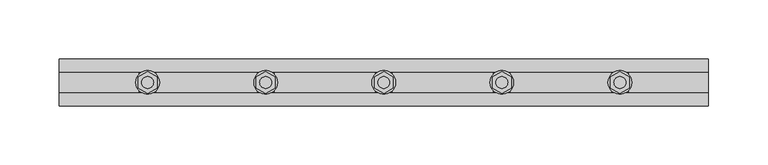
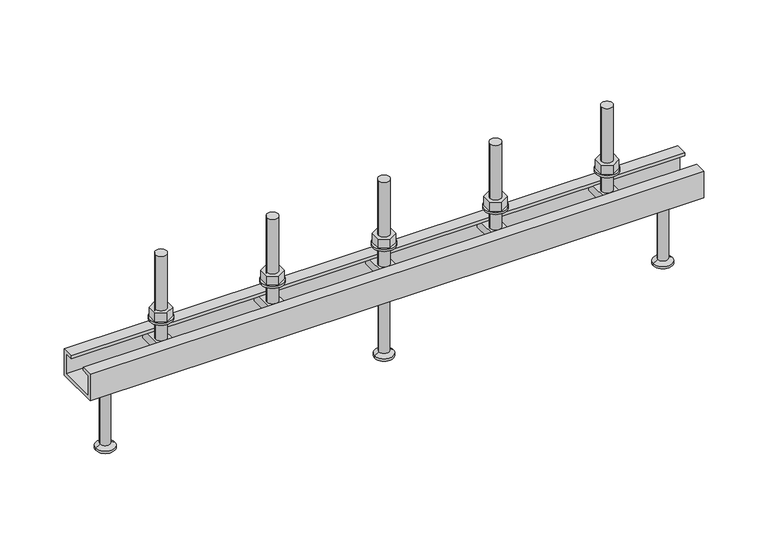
"""IFC4 building model written with IfcOpenShell, lengths in millimetres: fastener geometry, JTA-K JORDAHL® AnchorChannels : JTA-K L=550 mm."""

from ifc_helpers import new_model, si_unit, point, frame, frame_2d, origin, place, context, project, spatial, polyline, circle_curve, trimmed, segment, composite_curve, outline, extrude, source, transform, mapped, element, save
from ifc_brep_helpers import plane_surface, cylinder_surface, revolved_surface, advanced_brep


def fastener_92227e6e(model_context):
    return source(origin(), model_context, "Body", "SolidModel", [
        extrude(outline(polyline([(375.0, -9.2376043), (367.0, -4.6188022), (367.0, 4.6188022), (375.0, 9.2376043), (383.0, 4.6188022), (383.0, -4.6188022), (375.0, -9.2376043)]), holes=[composite_curve([segment(trimmed(circle_curve(frame_2d((375.0, 0.0)), 5.0), [point((370.0, 0.0))], [point((380.0, 0.0))], True, "CARTESIAN"), True, "CONTINUOUS"), segment(trimmed(circle_curve(frame_2d((375.0, 0.0)), 5.0), [point((380.0, 0.0))], [point((370.0, 0.0))], True, "CARTESIAN"), True, "CONTINUOUS")], self_intersect=False)]), frame((0.0, 0.0, 17.0), z_axis=(0.0, 0.0, 1.0), x_axis=(1.0, 0.0, 0.0)), (0.0, 0.0, 1.0), 8.4),
        extrude(outline(composite_curve([segment(trimmed(circle_curve(frame_2d((375.0, 0.0)), 10.0), [point((365.0, 0.0))], [point((385.0, 0.0))], False, "CARTESIAN"), True, "CONTINUOUS"), segment(trimmed(circle_curve(frame_2d((375.0, 0.0)), 10.0), [point((385.0, 0.0))], [point((365.0, 0.0))], False, "CARTESIAN"), True, "CONTINUOUS")], self_intersect=False), holes=[composite_curve([segment(trimmed(circle_curve(frame_2d((375.0, 0.0)), 5.25), [point((369.75, 0.0))], [point((380.25, 0.0))], True, "CARTESIAN"), True, "CONTINUOUS"), segment(trimmed(circle_curve(frame_2d((375.0, 0.0)), 5.25), [point((380.25, 0.0))], [point((369.75, 0.0))], True, "CARTESIAN"), True, "CONTINUOUS")], self_intersect=False)]), frame((0.0, 0.0, 15.0), z_axis=(0.0, 0.0, 1.0), x_axis=(1.0, 0.0, 0.0)), (0.0, 0.0, 1.0), 2.0),
        extrude(outline(polyline([(275.0, -9.2376043), (267.0, -4.6188022), (267.0, 4.6188022), (275.0, 9.2376043), (283.0, 4.6188022), (283.0, -4.6188022), (275.0, -9.2376043)]), holes=[composite_curve([segment(trimmed(circle_curve(frame_2d((275.0, 0.0)), 5.0), [point((270.0, 0.0))], [point((280.0, 0.0))], True, "CARTESIAN"), True, "CONTINUOUS"), segment(trimmed(circle_curve(frame_2d((275.0, 0.0)), 5.0), [point((280.0, 0.0))], [point((270.0, 0.0))], True, "CARTESIAN"), True, "CONTINUOUS")], self_intersect=False)]), frame((0.0, 0.0, 17.0), z_axis=(0.0, 0.0, 1.0), x_axis=(1.0, 0.0, 0.0)), (0.0, 0.0, 1.0), 8.4),
        extrude(outline(composite_curve([segment(trimmed(circle_curve(frame_2d((275.0, 0.0)), 10.0), [point((265.0, 0.0))], [point((285.0, 0.0))], False, "CARTESIAN"), True, "CONTINUOUS"), segment(trimmed(circle_curve(frame_2d((275.0, 0.0)), 10.0), [point((285.0, 0.0))], [point((265.0, 0.0))], False, "CARTESIAN"), True, "CONTINUOUS")], self_intersect=False), holes=[composite_curve([segment(trimmed(circle_curve(frame_2d((275.0, 0.0)), 5.25), [point((269.75, 0.0))], [point((280.25, 0.0))], True, "CARTESIAN"), True, "CONTINUOUS"), segment(trimmed(circle_curve(frame_2d((275.0, 0.0)), 5.25), [point((280.25, 0.0))], [point((269.75, 0.0))], True, "CARTESIAN"), True, "CONTINUOUS")], self_intersect=False)]), frame((0.0, 0.0, 15.0), z_axis=(0.0, 0.0, 1.0), x_axis=(1.0, 0.0, 0.0)), (0.0, 0.0, 1.0), 2.0),
        extrude(outline(polyline([(175.0, -9.2376043), (167.0, -4.6188022), (167.0, 4.6188022), (175.0, 9.2376043), (183.0, 4.6188022), (183.0, -4.6188022), (175.0, -9.2376043)]), holes=[composite_curve([segment(trimmed(circle_curve(frame_2d((175.0, 0.0)), 5.0), [point((170.0, 0.0))], [point((180.0, 0.0))], True, "CARTESIAN"), True, "CONTINUOUS"), segment(trimmed(circle_curve(frame_2d((175.0, 0.0)), 5.0), [point((180.0, 0.0))], [point((170.0, 0.0))], True, "CARTESIAN"), True, "CONTINUOUS")], self_intersect=False)]), frame((0.0, 0.0, 17.0), z_axis=(0.0, 0.0, 1.0), x_axis=(1.0, 0.0, 0.0)), (0.0, 0.0, 1.0), 8.4),
        extrude(outline(composite_curve([segment(trimmed(circle_curve(frame_2d((175.0, 0.0)), 10.0), [point((165.0, 0.0))], [point((185.0, 0.0))], False, "CARTESIAN"), True, "CONTINUOUS"), segment(trimmed(circle_curve(frame_2d((175.0, 0.0)), 10.0), [point((185.0, 0.0))], [point((165.0, 0.0))], False, "CARTESIAN"), True, "CONTINUOUS")], self_intersect=False), holes=[composite_curve([segment(trimmed(circle_curve(frame_2d((175.0, 0.0)), 5.25), [point((169.75, 0.0))], [point((180.25, 0.0))], True, "CARTESIAN"), True, "CONTINUOUS"), segment(trimmed(circle_curve(frame_2d((175.0, 0.0)), 5.25), [point((180.25, 0.0))], [point((169.75, 0.0))], True, "CARTESIAN"), True, "CONTINUOUS")], self_intersect=False)]), frame((0.0, 0.0, 15.0), z_axis=(0.0, 0.0, 1.0), x_axis=(1.0, 0.0, 0.0)), (0.0, 0.0, 1.0), 2.0),
        advanced_brep(
        [(382.0, -16.0, -3.0), (382.0, -16.0, -11.0), (382.0, 16.0, -11.0), (382.0, 16.0, -3.0), (368.0, -16.0, -3.0), (368.0, 16.0, -3.0), (368.0, 16.0, -11.0), (368.0, -16.0, -11.0), (380.0, 0.0, -3.0), (370.0, 0.0, -3.0), (370.0, 0.0, 77.0), (380.0, 0.0, 77.0)],
        [
            (0, 1),
            (1, 2),
            (2, 3),
            (3, 0),
            (4, 5),
            (5, 6),
            (6, 7),
            (7, 4),
            (3, 5),
            (4, 0),
            (8, 9, circle_curve(frame((375.0, 0.0, -3.0), z_axis=(0.0, 0.0, -1.0), x_axis=(1.0, 0.0, 0.0)), 5.0)),
            (9, 8, circle_curve(frame((375.0, 0.0, -3.0), z_axis=(0.0, 0.0, -1.0), x_axis=(1.0, 0.0, 0.0)), 5.0)),
            (2, 6),
            (1, 7),
            (10, 11, circle_curve(frame((375.0, 0.0, 77.0), z_axis=(0.0, 0.0, 1.0), x_axis=(1.0, 0.0, 0.0)), 5.0)),
            (11, 10, circle_curve(frame((375.0, 0.0, 77.0), z_axis=(0.0, 0.0, 1.0), x_axis=(1.0, 0.0, 0.0)), 5.0)),
            (11, 8),
            (9, 10),
        ],
        [
            plane_surface(frame((382.0, 16.0, -3.0), z_axis=(1.0, 0.0, 0.0), x_axis=(0.0, 1.0, 0.0))),
            plane_surface(frame((368.0, 16.0, -3.0), z_axis=(-1.0, 0.0, 0.0), x_axis=(0.0, -1.0, 0.0))),
            plane_surface(frame((382.0, -16.0, -3.0), z_axis=(0.0, 0.0, 1.0), x_axis=(-1.0, 0.0, 0.0))),
            plane_surface(frame((382.0, 16.0, -3.0), z_axis=(0.0, 1.0, 0.0), x_axis=(-1.0, 0.0, 0.0))),
            plane_surface(frame((382.0, 16.0, -11.0), z_axis=(0.0, 0.0, -1.0), x_axis=(-1.0, 0.0, 0.0))),
            plane_surface(frame((382.0, -16.0, -11.0), z_axis=(0.0, -1.0, 0.0), x_axis=(-1.0, 0.0, 0.0))),
            plane_surface(frame((380.0, 0.0, 77.0), z_axis=(0.0, 0.0, 1.0), x_axis=(0.0, -1.0, 0.0))),
            cylinder_surface(frame((375.0, 0.0, -3.0), z_axis=(0.0, 0.0, 1.0), x_axis=(1.0, 0.0, 0.0)), 5.0),
        ],
        [
            (0, [[1, 2, 3, 4]]),
            (1, [[5, 6, 7, 8]]),
            (2, [[9, -5, 10, -4], [11, 12]]),
            (3, [[13, -6, -9, -3]]),
            (4, [[14, -7, -13, -2]]),
            (5, [[-10, -8, -14, -1]]),
            (6, [[15, 16]]),
            (7, [[17, -12, 18, -16]]),
            (7, [[-18, -11, -17, -15]]),
        ],
    ),
        advanced_brep(
        [(282.0, -16.0, -3.0), (282.0, -16.0, -11.0), (282.0, 16.0, -11.0), (282.0, 16.0, -3.0), (268.0, -16.0, -3.0), (268.0, 16.0, -3.0), (268.0, 16.0, -11.0), (268.0, -16.0, -11.0), (280.0, 0.0, -3.0), (270.0, 0.0, -3.0), (270.0, 0.0, 77.0), (280.0, 0.0, 77.0)],
        [
            (0, 1),
            (1, 2),
            (2, 3),
            (3, 0),
            (4, 5),
            (5, 6),
            (6, 7),
            (7, 4),
            (3, 5),
            (4, 0),
            (8, 9, circle_curve(frame((275.0, 0.0, -3.0), z_axis=(0.0, 0.0, -1.0), x_axis=(1.0, 0.0, 0.0)), 5.0)),
            (9, 8, circle_curve(frame((275.0, 0.0, -3.0), z_axis=(0.0, 0.0, -1.0), x_axis=(1.0, 0.0, 0.0)), 5.0)),
            (2, 6),
            (1, 7),
            (10, 11, circle_curve(frame((275.0, 0.0, 77.0), z_axis=(0.0, 0.0, 1.0), x_axis=(1.0, 0.0, 0.0)), 5.0)),
            (11, 10, circle_curve(frame((275.0, 0.0, 77.0), z_axis=(0.0, 0.0, 1.0), x_axis=(1.0, 0.0, 0.0)), 5.0)),
            (11, 8),
            (9, 10),
        ],
        [
            plane_surface(frame((282.0, 16.0, -3.0), z_axis=(1.0, 0.0, 0.0), x_axis=(0.0, 1.0, 0.0))),
            plane_surface(frame((268.0, 16.0, -3.0), z_axis=(-1.0, 0.0, 0.0), x_axis=(0.0, -1.0, 0.0))),
            plane_surface(frame((282.0, -16.0, -3.0), z_axis=(0.0, 0.0, 1.0), x_axis=(-1.0, 0.0, 0.0))),
            plane_surface(frame((282.0, 16.0, -3.0), z_axis=(0.0, 1.0, 0.0), x_axis=(-1.0, 0.0, 0.0))),
            plane_surface(frame((282.0, 16.0, -11.0), z_axis=(0.0, 0.0, -1.0), x_axis=(-1.0, 0.0, 0.0))),
            plane_surface(frame((282.0, -16.0, -11.0), z_axis=(0.0, -1.0, 0.0), x_axis=(-1.0, 0.0, 0.0))),
            plane_surface(frame((280.0, 0.0, 77.0), z_axis=(0.0, 0.0, 1.0), x_axis=(0.0, -1.0, 0.0))),
            cylinder_surface(frame((275.0, 0.0, -3.0), z_axis=(0.0, 0.0, 1.0), x_axis=(1.0, 0.0, 0.0)), 5.0),
        ],
        [
            (0, [[1, 2, 3, 4]]),
            (1, [[5, 6, 7, 8]]),
            (2, [[9, -5, 10, -4], [11, 12]]),
            (3, [[13, -6, -9, -3]]),
            (4, [[14, -7, -13, -2]]),
            (5, [[-10, -8, -14, -1]]),
            (6, [[15, 16]]),
            (7, [[17, -12, 18, -16]]),
            (7, [[-18, -11, -17, -15]]),
        ],
    ),
        advanced_brep(
        [(182.0, -16.0, -3.0), (182.0, -16.0, -11.0), (182.0, 16.0, -11.0), (182.0, 16.0, -3.0), (168.0, -16.0, -3.0), (168.0, 16.0, -3.0), (168.0, 16.0, -11.0), (168.0, -16.0, -11.0), (180.0, 0.0, -3.0), (170.0, 0.0, -3.0), (170.0, 0.0, 77.0), (180.0, 0.0, 77.0)],
        [
            (0, 1),
            (1, 2),
            (2, 3),
            (3, 0),
            (4, 5),
            (5, 6),
            (6, 7),
            (7, 4),
            (3, 5),
            (4, 0),
            (8, 9, circle_curve(frame((175.0, 0.0, -3.0), z_axis=(0.0, 0.0, -1.0), x_axis=(1.0, 0.0, 0.0)), 5.0)),
            (9, 8, circle_curve(frame((175.0, 0.0, -3.0), z_axis=(0.0, 0.0, -1.0), x_axis=(1.0, 0.0, 0.0)), 5.0)),
            (2, 6),
            (1, 7),
            (10, 11, circle_curve(frame((175.0, 0.0, 77.0), z_axis=(0.0, 0.0, 1.0), x_axis=(1.0, 0.0, 0.0)), 5.0)),
            (11, 10, circle_curve(frame((175.0, 0.0, 77.0), z_axis=(0.0, 0.0, 1.0), x_axis=(1.0, 0.0, 0.0)), 5.0)),
            (11, 8),
            (9, 10),
        ],
        [
            plane_surface(frame((182.0, 16.0, -3.0), z_axis=(1.0, 0.0, 0.0), x_axis=(0.0, 1.0, 0.0))),
            plane_surface(frame((168.0, 16.0, -3.0), z_axis=(-1.0, 0.0, 0.0), x_axis=(0.0, -1.0, 0.0))),
            plane_surface(frame((182.0, -16.0, -3.0), z_axis=(0.0, 0.0, 1.0), x_axis=(-1.0, 0.0, 0.0))),
            plane_surface(frame((182.0, 16.0, -3.0), z_axis=(0.0, 1.0, 0.0), x_axis=(-1.0, 0.0, 0.0))),
            plane_surface(frame((182.0, 16.0, -11.0), z_axis=(0.0, 0.0, -1.0), x_axis=(-1.0, 0.0, 0.0))),
            plane_surface(frame((182.0, -16.0, -11.0), z_axis=(0.0, -1.0, 0.0), x_axis=(-1.0, 0.0, 0.0))),
            plane_surface(frame((180.0, 0.0, 77.0), z_axis=(0.0, 0.0, 1.0), x_axis=(0.0, -1.0, 0.0))),
            cylinder_surface(frame((175.0, 0.0, -3.0), z_axis=(0.0, 0.0, 1.0), x_axis=(1.0, 0.0, 0.0)), 5.0),
        ],
        [
            (0, [[1, 2, 3, 4]]),
            (1, [[5, 6, 7, 8]]),
            (2, [[9, -5, 10, -4], [11, 12]]),
            (3, [[13, -6, -9, -3]]),
            (4, [[14, -7, -13, -2]]),
            (5, [[-10, -8, -14, -1]]),
            (6, [[15, 16]]),
            (7, [[17, -12, 18, -16]]),
            (7, [[-18, -11, -17, -15]]),
        ],
    ),
        advanced_brep(
        [(275.0, 0.0, -25.0), (261.5, 0.0, -25.0), (288.5, 0.0, -25.0), (266.5, 0.0, -90.0), (275.0, 0.0, -90.0), (283.5, 0.0, -90.0), (266.5, 0.0, -88.0), (283.5, 0.0, -88.0), (270.5, 0.0, -85.6905989), (279.5, 0.0, -85.6905989), (270.5, 0.0, -27.5), (279.5, 0.0, -27.5)],
        [
            (0, 1),
            (1, 2, circle_curve(frame((275.0, 0.0, -25.0), z_axis=(0.0, 0.0, 1.0), x_axis=(1.0, 0.0, 0.0)), 13.5)),
            (2, 0),
            (2, 1, circle_curve(frame((275.0, 0.0, -25.0), z_axis=(0.0, 0.0, 1.0), x_axis=(1.0, 0.0, 0.0)), 13.5)),
            (3, 4),
            (4, 5),
            (5, 3, circle_curve(frame((275.0, 0.0, -90.0), z_axis=(0.0, 0.0, -1.0), x_axis=(1.0, 0.0, 0.0)), 8.5)),
            (3, 5, circle_curve(frame((275.0, 0.0, -90.0), z_axis=(0.0, 0.0, -1.0), x_axis=(1.0, 0.0, 0.0)), 8.5)),
            (6, 3),
            (5, 7),
            (7, 6, circle_curve(frame((275.0, 0.0, -88.0), z_axis=(0.0, 0.0, -1.0), x_axis=(1.0, 0.0, 0.0)), 8.5)),
            (6, 7, circle_curve(frame((275.0, 0.0, -88.0), z_axis=(0.0, 0.0, -1.0), x_axis=(1.0, 0.0, 0.0)), 8.5)),
            (8, 6),
            (7, 9),
            (9, 8, circle_curve(frame((275.0, 0.0, -85.6905989), z_axis=(0.0, 0.0, -1.0), x_axis=(1.0, 0.0, 0.0)), 4.5)),
            (8, 9, circle_curve(frame((275.0, 0.0, -85.6905989), z_axis=(0.0, 0.0, -1.0), x_axis=(1.0, 0.0, 0.0)), 4.5)),
            (10, 8),
            (9, 11),
            (11, 10, circle_curve(frame((275.0, 0.0, -27.5), z_axis=(0.0, 0.0, -1.0), x_axis=(1.0, 0.0, 0.0)), 4.5)),
            (10, 11, circle_curve(frame((275.0, 0.0, -27.5), z_axis=(0.0, 0.0, -1.0), x_axis=(1.0, 0.0, 0.0)), 4.5)),
            (1, 10),
            (11, 2),
        ],
        [
            plane_surface(frame((275.0, 0.0, -25.0), z_axis=(0.0, 0.0, 1.0), x_axis=(1.0, 0.0, 0.0))),
            plane_surface(frame((275.0, 0.0, -90.0), z_axis=(0.0, 0.0, -1.0), x_axis=(1.0, 0.0, 0.0))),
            cylinder_surface(frame((275.0, 0.0, 2279.3150031), z_axis=(0.0, 0.0, 1.0), x_axis=(1.0, 0.0, 0.0)), 8.5),
            revolved_surface(polyline([(283.5, 0.0, -88.0), (279.5, 0.0, -85.6905989)]), (275.0, 0.0, 2279.3150031), (0.0, 0.0, 1.0)),
            cylinder_surface(frame((275.0, 0.0, 2279.3150031), z_axis=(0.0, 0.0, 1.0), x_axis=(1.0, 0.0, 0.0)), 4.5),
            revolved_surface(polyline([(279.5, 0.0, -27.5), (288.5, 0.0, -25.0)]), (275.0, 0.0, 2279.3150031), (0.0, 0.0, 1.0)),
        ],
        [
            (0, [[1, 2, 3]]),
            (0, [[-3, 4, -1]]),
            (1, [[5, 6, 7]]),
            (1, [[-6, -5, 8]]),
            (2, [[9, -7, 10, 11]]),
            (2, [[-10, -8, -9, 12]]),
            (3, [[13, -11, 14, 15]]),
            (3, [[-14, -12, -13, 16]]),
            (4, [[17, -15, 18, 19]]),
            (4, [[-18, -16, -17, 20]]),
            (5, [[21, -19, 22, -2]]),
            (5, [[-22, -20, -21, -4]]),
        ],
    ),
        extrude(outline(polyline([(475.0, -9.2376043), (467.0, -4.6188022), (467.0, 4.6188022), (475.0, 9.2376043), (483.0, 4.6188022), (483.0, -4.6188022), (475.0, -9.2376043)]), holes=[composite_curve([segment(trimmed(circle_curve(frame_2d((475.0, 0.0)), 5.0), [point((470.0, 0.0))], [point((480.0, 0.0))], True, "CARTESIAN"), True, "CONTINUOUS"), segment(trimmed(circle_curve(frame_2d((475.0, 0.0)), 5.0), [point((480.0, 0.0))], [point((470.0, 0.0))], True, "CARTESIAN"), True, "CONTINUOUS")], self_intersect=False)]), frame((0.0, 0.0, 17.0), z_axis=(0.0, 0.0, 1.0), x_axis=(1.0, 0.0, 0.0)), (0.0, 0.0, 1.0), 8.4),
        extrude(outline(composite_curve([segment(trimmed(circle_curve(frame_2d((475.0, 0.0)), 10.0), [point((465.0, 0.0))], [point((485.0, 0.0))], False, "CARTESIAN"), True, "CONTINUOUS"), segment(trimmed(circle_curve(frame_2d((475.0, 0.0)), 10.0), [point((485.0, 0.0))], [point((465.0, 0.0))], False, "CARTESIAN"), True, "CONTINUOUS")], self_intersect=False), holes=[composite_curve([segment(trimmed(circle_curve(frame_2d((475.0, 0.0)), 5.25), [point((469.75, 0.0))], [point((480.25, 0.0))], True, "CARTESIAN"), True, "CONTINUOUS"), segment(trimmed(circle_curve(frame_2d((475.0, 0.0)), 5.25), [point((480.25, 0.0))], [point((469.75, 0.0))], True, "CARTESIAN"), True, "CONTINUOUS")], self_intersect=False)]), frame((0.0, 0.0, 15.0), z_axis=(0.0, 0.0, 1.0), x_axis=(1.0, 0.0, 0.0)), (0.0, 0.0, 1.0), 2.0),
        extrude(outline(polyline([(75.0, -9.2376043), (67.0, -4.6188022), (67.0, 4.6188022), (75.0, 9.2376043), (83.0, 4.6188022), (83.0, -4.6188022), (75.0, -9.2376043)]), holes=[composite_curve([segment(trimmed(circle_curve(frame_2d((75.0, 0.0)), 5.0), [point((70.0, 0.0))], [point((80.0, 0.0))], True, "CARTESIAN"), True, "CONTINUOUS"), segment(trimmed(circle_curve(frame_2d((75.0, 0.0)), 5.0), [point((80.0, 0.0))], [point((70.0, 0.0))], True, "CARTESIAN"), True, "CONTINUOUS")], self_intersect=False)]), frame((0.0, 0.0, 17.0), z_axis=(0.0, 0.0, 1.0), x_axis=(1.0, 0.0, 0.0)), (0.0, 0.0, 1.0), 8.4),
        extrude(outline(composite_curve([segment(trimmed(circle_curve(frame_2d((75.0, 0.0)), 10.0), [point((65.0, 0.0))], [point((85.0, 0.0))], False, "CARTESIAN"), True, "CONTINUOUS"), segment(trimmed(circle_curve(frame_2d((75.0, 0.0)), 10.0), [point((85.0, 0.0))], [point((65.0, 0.0))], False, "CARTESIAN"), True, "CONTINUOUS")], self_intersect=False), holes=[composite_curve([segment(trimmed(circle_curve(frame_2d((75.0, 0.0)), 5.25), [point((69.75, 0.0))], [point((80.25, 0.0))], True, "CARTESIAN"), True, "CONTINUOUS"), segment(trimmed(circle_curve(frame_2d((75.0, 0.0)), 5.25), [point((80.25, 0.0))], [point((69.75, 0.0))], True, "CARTESIAN"), True, "CONTINUOUS")], self_intersect=False)]), frame((0.0, 0.0, 15.0), z_axis=(0.0, 0.0, 1.0), x_axis=(1.0, 0.0, 0.0)), (0.0, 0.0, 1.0), 2.0),
        advanced_brep(
        [(482.0, -16.0, -3.0), (482.0, -16.0, -11.0), (482.0, 16.0, -11.0), (482.0, 16.0, -3.0), (468.0, -16.0, -3.0), (468.0, 16.0, -3.0), (468.0, 16.0, -11.0), (468.0, -16.0, -11.0), (480.0, 0.0, -3.0), (470.0, 0.0, -3.0), (470.0, 0.0, 77.0), (480.0, 0.0, 77.0)],
        [
            (0, 1),
            (1, 2),
            (2, 3),
            (3, 0),
            (4, 5),
            (5, 6),
            (6, 7),
            (7, 4),
            (3, 5),
            (4, 0),
            (8, 9, circle_curve(frame((475.0, 0.0, -3.0), z_axis=(0.0, 0.0, -1.0), x_axis=(1.0, 0.0, 0.0)), 5.0)),
            (9, 8, circle_curve(frame((475.0, 0.0, -3.0), z_axis=(0.0, 0.0, -1.0), x_axis=(1.0, 0.0, 0.0)), 5.0)),
            (2, 6),
            (1, 7),
            (10, 11, circle_curve(frame((475.0, 0.0, 77.0), z_axis=(0.0, 0.0, 1.0), x_axis=(1.0, 0.0, 0.0)), 5.0)),
            (11, 10, circle_curve(frame((475.0, 0.0, 77.0), z_axis=(0.0, 0.0, 1.0), x_axis=(1.0, 0.0, 0.0)), 5.0)),
            (11, 8),
            (9, 10),
        ],
        [
            plane_surface(frame((482.0, 16.0, -3.0), z_axis=(1.0, 0.0, 0.0), x_axis=(0.0, 1.0, 0.0))),
            plane_surface(frame((468.0, 16.0, -3.0), z_axis=(-1.0, 0.0, 0.0), x_axis=(0.0, -1.0, 0.0))),
            plane_surface(frame((482.0, -16.0, -3.0), z_axis=(0.0, 0.0, 1.0), x_axis=(-1.0, 0.0, 0.0))),
            plane_surface(frame((482.0, 16.0, -3.0), z_axis=(0.0, 1.0, 0.0), x_axis=(-1.0, 0.0, 0.0))),
            plane_surface(frame((482.0, 16.0, -11.0), z_axis=(0.0, 0.0, -1.0), x_axis=(-1.0, 0.0, 0.0))),
            plane_surface(frame((482.0, -16.0, -11.0), z_axis=(0.0, -1.0, 0.0), x_axis=(-1.0, 0.0, 0.0))),
            plane_surface(frame((480.0, 0.0, 77.0), z_axis=(0.0, 0.0, 1.0), x_axis=(0.0, -1.0, 0.0))),
            cylinder_surface(frame((475.0, 0.0, -3.0), z_axis=(0.0, 0.0, 1.0), x_axis=(1.0, 0.0, 0.0)), 5.0),
        ],
        [
            (0, [[1, 2, 3, 4]]),
            (1, [[5, 6, 7, 8]]),
            (2, [[9, -5, 10, -4], [11, 12]]),
            (3, [[13, -6, -9, -3]]),
            (4, [[14, -7, -13, -2]]),
            (5, [[-10, -8, -14, -1]]),
            (6, [[15, 16]]),
            (7, [[17, -12, 18, -16]]),
            (7, [[-18, -11, -17, -15]]),
        ],
    ),
        advanced_brep(
        [(82.0, -16.0, -3.0), (82.0, -16.0, -11.0), (82.0, 16.0, -11.0), (82.0, 16.0, -3.0), (68.0, -16.0, -3.0), (68.0, 16.0, -3.0), (68.0, 16.0, -11.0), (68.0, -16.0, -11.0), (80.0, 0.0, -3.0), (70.0, 0.0, -3.0), (70.0, 0.0, 77.0), (80.0, 0.0, 77.0)],
        [
            (0, 1),
            (1, 2),
            (2, 3),
            (3, 0),
            (4, 5),
            (5, 6),
            (6, 7),
            (7, 4),
            (3, 5),
            (4, 0),
            (8, 9, circle_curve(frame((75.0, 0.0, -3.0), z_axis=(0.0, 0.0, -1.0), x_axis=(1.0, 0.0, 0.0)), 5.0)),
            (9, 8, circle_curve(frame((75.0, 0.0, -3.0), z_axis=(0.0, 0.0, -1.0), x_axis=(1.0, 0.0, 0.0)), 5.0)),
            (2, 6),
            (1, 7),
            (10, 11, circle_curve(frame((75.0, 0.0, 77.0), z_axis=(0.0, 0.0, 1.0), x_axis=(1.0, 0.0, 0.0)), 5.0)),
            (11, 10, circle_curve(frame((75.0, 0.0, 77.0), z_axis=(0.0, 0.0, 1.0), x_axis=(1.0, 0.0, 0.0)), 5.0)),
            (11, 8),
            (9, 10),
        ],
        [
            plane_surface(frame((82.0, 16.0, -3.0), z_axis=(1.0, 0.0, 0.0), x_axis=(0.0, 1.0, 0.0))),
            plane_surface(frame((68.0, 16.0, -3.0), z_axis=(-1.0, 0.0, 0.0), x_axis=(0.0, -1.0, 0.0))),
            plane_surface(frame((82.0, -16.0, -3.0), z_axis=(0.0, 0.0, 1.0), x_axis=(-1.0, 0.0, 0.0))),
            plane_surface(frame((82.0, 16.0, -3.0), z_axis=(0.0, 1.0, 0.0), x_axis=(-1.0, 0.0, 0.0))),
            plane_surface(frame((82.0, 16.0, -11.0), z_axis=(0.0, 0.0, -1.0), x_axis=(-1.0, 0.0, 0.0))),
            plane_surface(frame((82.0, -16.0, -11.0), z_axis=(0.0, -1.0, 0.0), x_axis=(-1.0, 0.0, 0.0))),
            plane_surface(frame((80.0, 0.0, 77.0), z_axis=(0.0, 0.0, 1.0), x_axis=(0.0, -1.0, 0.0))),
            cylinder_surface(frame((75.0, 0.0, -3.0), z_axis=(0.0, 0.0, 1.0), x_axis=(1.0, 0.0, 0.0)), 5.0),
        ],
        [
            (0, [[1, 2, 3, 4]]),
            (1, [[5, 6, 7, 8]]),
            (2, [[9, -5, 10, -4], [11, 12]]),
            (3, [[13, -6, -9, -3]]),
            (4, [[14, -7, -13, -2]]),
            (5, [[-10, -8, -14, -1]]),
            (6, [[15, 16]]),
            (7, [[17, -12, 18, -16]]),
            (7, [[-18, -11, -17, -15]]),
        ],
    ),
        advanced_brep(
        [(525.0, 0.0, -25.0), (511.5, 0.0, -25.0), (538.5, 0.0, -25.0), (516.5, 0.0, -90.0), (525.0, 0.0, -90.0), (533.5, 0.0, -90.0), (516.5, 0.0, -88.0), (533.5, 0.0, -88.0), (520.5, 0.0, -85.6905989), (529.5, 0.0, -85.6905989), (520.5, 0.0, -27.5), (529.5, 0.0, -27.5)],
        [
            (0, 1),
            (1, 2, circle_curve(frame((525.0, 0.0, -25.0), z_axis=(0.0, 0.0, 1.0), x_axis=(1.0, 0.0, 0.0)), 13.5)),
            (2, 0),
            (2, 1, circle_curve(frame((525.0, 0.0, -25.0), z_axis=(0.0, 0.0, 1.0), x_axis=(1.0, 0.0, 0.0)), 13.5)),
            (3, 4),
            (4, 5),
            (5, 3, circle_curve(frame((525.0, 0.0, -90.0), z_axis=(0.0, 0.0, -1.0), x_axis=(1.0, 0.0, 0.0)), 8.5)),
            (3, 5, circle_curve(frame((525.0, 0.0, -90.0), z_axis=(0.0, 0.0, -1.0), x_axis=(1.0, 0.0, 0.0)), 8.5)),
            (6, 3),
            (5, 7),
            (7, 6, circle_curve(frame((525.0, 0.0, -88.0), z_axis=(0.0, 0.0, -1.0), x_axis=(1.0, 0.0, 0.0)), 8.5)),
            (6, 7, circle_curve(frame((525.0, 0.0, -88.0), z_axis=(0.0, 0.0, -1.0), x_axis=(1.0, 0.0, 0.0)), 8.5)),
            (8, 6),
            (7, 9),
            (9, 8, circle_curve(frame((525.0, 0.0, -85.6905989), z_axis=(0.0, 0.0, -1.0), x_axis=(1.0, 0.0, 0.0)), 4.5)),
            (8, 9, circle_curve(frame((525.0, 0.0, -85.6905989), z_axis=(0.0, 0.0, -1.0), x_axis=(1.0, 0.0, 0.0)), 4.5)),
            (10, 8),
            (9, 11),
            (11, 10, circle_curve(frame((525.0, 0.0, -27.5), z_axis=(0.0, 0.0, -1.0), x_axis=(1.0, 0.0, 0.0)), 4.5)),
            (10, 11, circle_curve(frame((525.0, 0.0, -27.5), z_axis=(0.0, 0.0, -1.0), x_axis=(1.0, 0.0, 0.0)), 4.5)),
            (1, 10),
            (11, 2),
        ],
        [
            plane_surface(frame((525.0, 0.0, -25.0), z_axis=(0.0, 0.0, 1.0), x_axis=(1.0, 0.0, 0.0))),
            plane_surface(frame((525.0, 0.0, -90.0), z_axis=(0.0, 0.0, -1.0), x_axis=(1.0, 0.0, 0.0))),
            cylinder_surface(frame((525.0, 0.0, 2279.3150031), z_axis=(0.0, 0.0, 1.0), x_axis=(1.0, 0.0, 0.0)), 8.5),
            revolved_surface(polyline([(533.5, 0.0, -88.0), (529.5, 0.0, -85.6905989)]), (525.0, 0.0, 2279.3150031), (0.0, 0.0, 1.0)),
            cylinder_surface(frame((525.0, 0.0, 2279.3150031), z_axis=(0.0, 0.0, 1.0), x_axis=(1.0, 0.0, 0.0)), 4.5),
            revolved_surface(polyline([(529.5, 0.0, -27.5), (538.5, 0.0, -25.0)]), (525.0, 0.0, 2279.3150031), (0.0, 0.0, 1.0)),
        ],
        [
            (0, [[1, 2, 3]]),
            (0, [[-3, 4, -1]]),
            (1, [[5, 6, 7]]),
            (1, [[-6, -5, 8]]),
            (2, [[9, -7, 10, 11]]),
            (2, [[-10, -8, -9, 12]]),
            (3, [[13, -11, 14, 15]]),
            (3, [[-14, -12, -13, 16]]),
            (4, [[17, -15, 18, 19]]),
            (4, [[-18, -16, -17, 20]]),
            (5, [[21, -19, 22, -2]]),
            (5, [[-22, -20, -21, -4]]),
        ],
    ),
        advanced_brep(
        [(25.0, 0.0, -25.0), (11.5, 0.0, -25.0), (38.5, 0.0, -25.0), (16.5, 0.0, -90.0), (25.0, 0.0, -90.0), (33.5, 0.0, -90.0), (16.5, 0.0, -88.0), (33.5, 0.0, -88.0), (20.5, 0.0, -85.6905989), (29.5, 0.0, -85.6905989), (20.5, 0.0, -27.5), (29.5, 0.0, -27.5)],
        [
            (0, 1),
            (1, 2, circle_curve(frame((25.0, 0.0, -25.0), z_axis=(0.0, 0.0, 1.0), x_axis=(1.0, 0.0, 0.0)), 13.5)),
            (2, 0),
            (2, 1, circle_curve(frame((25.0, 0.0, -25.0), z_axis=(0.0, 0.0, 1.0), x_axis=(1.0, 0.0, 0.0)), 13.5)),
            (3, 4),
            (4, 5),
            (5, 3, circle_curve(frame((25.0, 0.0, -90.0), z_axis=(0.0, 0.0, -1.0), x_axis=(1.0, 0.0, 0.0)), 8.5)),
            (3, 5, circle_curve(frame((25.0, 0.0, -90.0), z_axis=(0.0, 0.0, -1.0), x_axis=(1.0, 0.0, 0.0)), 8.5)),
            (6, 3),
            (5, 7),
            (7, 6, circle_curve(frame((25.0, 0.0, -88.0), z_axis=(0.0, 0.0, -1.0), x_axis=(1.0, 0.0, 0.0)), 8.5)),
            (6, 7, circle_curve(frame((25.0, 0.0, -88.0), z_axis=(0.0, 0.0, -1.0), x_axis=(1.0, 0.0, 0.0)), 8.5)),
            (8, 6),
            (7, 9),
            (9, 8, circle_curve(frame((25.0, 0.0, -85.6905989), z_axis=(0.0, 0.0, -1.0), x_axis=(1.0, 0.0, 0.0)), 4.5)),
            (8, 9, circle_curve(frame((25.0, 0.0, -85.6905989), z_axis=(0.0, 0.0, -1.0), x_axis=(1.0, 0.0, 0.0)), 4.5)),
            (10, 8),
            (9, 11),
            (11, 10, circle_curve(frame((25.0, 0.0, -27.5), z_axis=(0.0, 0.0, -1.0), x_axis=(1.0, 0.0, 0.0)), 4.5)),
            (10, 11, circle_curve(frame((25.0, 0.0, -27.5), z_axis=(0.0, 0.0, -1.0), x_axis=(1.0, 0.0, 0.0)), 4.5)),
            (1, 10),
            (11, 2),
        ],
        [
            plane_surface(frame((25.0, 0.0, -25.0), z_axis=(0.0, 0.0, 1.0), x_axis=(1.0, 0.0, 0.0))),
            plane_surface(frame((25.0, 0.0, -90.0), z_axis=(0.0, 0.0, -1.0), x_axis=(1.0, 0.0, 0.0))),
            cylinder_surface(frame((25.0, 0.0, 2279.3150031), z_axis=(0.0, 0.0, 1.0), x_axis=(1.0, 0.0, 0.0)), 8.5),
            revolved_surface(polyline([(33.5, 0.0, -88.0), (29.5, 0.0, -85.6905989)]), (25.0, 0.0, 2279.3150031), (0.0, 0.0, 1.0)),
            cylinder_surface(frame((25.0, 0.0, 2279.3150031), z_axis=(0.0, 0.0, 1.0), x_axis=(1.0, 0.0, 0.0)), 4.5),
            revolved_surface(polyline([(29.5, 0.0, -27.5), (38.5, 0.0, -25.0)]), (25.0, 0.0, 2279.3150031), (0.0, 0.0, 1.0)),
        ],
        [
            (0, [[1, 2, 3]]),
            (0, [[-3, 4, -1]]),
            (1, [[5, 6, 7]]),
            (1, [[-6, -5, 8]]),
            (2, [[9, -7, 10, 11]]),
            (2, [[-10, -8, -9, 12]]),
            (3, [[13, -11, 14, 15]]),
            (3, [[-14, -12, -13, 16]]),
            (4, [[17, -15, 18, 19]]),
            (4, [[-18, -16, -17, 20]]),
            (5, [[21, -19, 22, -2]]),
            (5, [[-22, -20, -21, -4]]),
        ],
    ),
        extrude(outline(polyline([(-20.0, 0.0), (-9.0, 0.0), (-9.0, -3.0), (-17.0, -3.0), (-17.0, -22.0), (17.0, -22.0), (17.0, -3.0), (9.0, -3.0), (9.0, 0.0), (20.0, 0.0), (20.0, -25.0), (-20.0, -25.0), (-20.0, 0.0)])), frame((0.0, 0.0, 0.0), z_axis=(1.0, 0.0, 0.0), x_axis=(0.0, 1.0, 0.0)), (0.0, 0.0, 1.0), 550.0),
    ])


if __name__ == "__main__":
    model = new_model("IFC4")
    model_context = context("Model", 3, world=origin())
    ifc_project = project(units=[si_unit("LENGTHUNIT", "METRE", prefix="MILLI")], contexts=[model_context])
    site = spatial("IfcSite", under=ifc_project)
    building = spatial("IfcBuilding", under=site)
    placement = place(None, origin())
    fastener_shape = fastener_92227e6e(model_context)
    element("IfcFastener", 1, ObjectType="JTA-K JORDAHL® AnchorChannels : JTA-K L=550 mm", at=placement, inside=building, context=model_context, shape_type="MappedRepresentation", body=[
        mapped(fastener_shape, transform((0.0, 0.0, 0.0), x_axis=(1.0, 0.0, 0.0), y_axis=(0.0, 1.0, 0.0), z_axis=(0.0, 0.0, 1.0))),
    ])
    save(model, "model.ifc")
